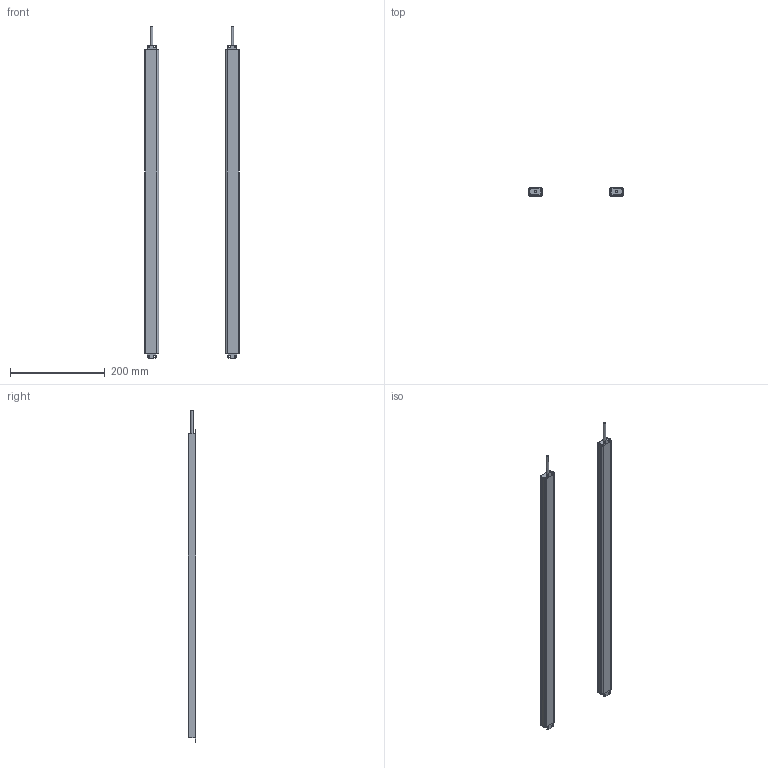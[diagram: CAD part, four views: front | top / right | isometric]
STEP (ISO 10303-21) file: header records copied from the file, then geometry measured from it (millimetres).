
FILE_DESCRIPTION(/* description */ (''),/* implementation_level */ '2;1');
FILE_NAME(/* name */ '3220（16X30ZW).stp',/* time_stamp */ '2020-07-14T19:14:43+08:00',/* author */ (''),/* organization */ (''),/* preprocessor_version */ 'ST-DEVELOPER v16',/* originating_system */ 'SIEMENS PLM Software NX 10.0',/* authorisation */ '');
FILE_SCHEMA (('AP203_CONFIGURATION_CONTROLLED_3D_DESIGN_OF_MECHANICAL_PARTS_AND_ASSEMBLIES_MIM_LF { 1 0 10303 403 2 1 2}'));
Length unit declared in the file: millimetre
Products named in the file (1): Admi58A03253m7hr
Bounding box: 200 x 16 x 701.5 mm (x, y, z)
Volume: 185325.8 mm3; surface area: 273724.1 mm2
Topology: 10 solids, 10 shells, 296 faces, 830 edges, 554 vertices
Faces by surface type: plane 160, cylinder 136
Full cylindrical faces by diameter (mm): 5 x2
Entity records: 9760 total; most frequent: DIRECTION 1692, CARTESIAN_POINT 1675, ORIENTED_EDGE 1652, EDGE_CURVE 826, AXIS2_PLACEMENT_3D 569, LINE 554, VECTOR 554, VERTEX_POINT 552
